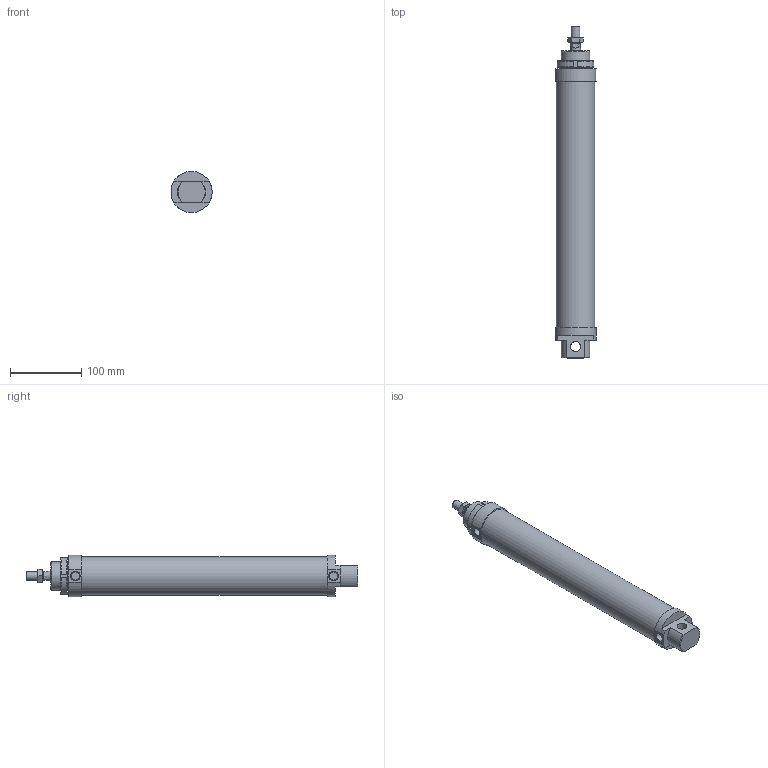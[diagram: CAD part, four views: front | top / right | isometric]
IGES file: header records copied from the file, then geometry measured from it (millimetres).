
Global section: file name: No Iges File Name specified; native system: AutoDesk Inventor R6.0; preprocessor: AutoDesk Inventor Iges Exporter R6.0; author: No Author specified; organization: No Organization specified; date: 20030402.145028; units: millimetre
Bounding box: 56.51 x 467 x 58 mm (x, y, z)
Surface area: 116288.2 mm2 (no closed solid volume)
Topology: 0 solids, 0 shells, 94 faces, 413 edges, 395 vertices
Faces by surface type: plane 44, revolution 39, bspline 11
